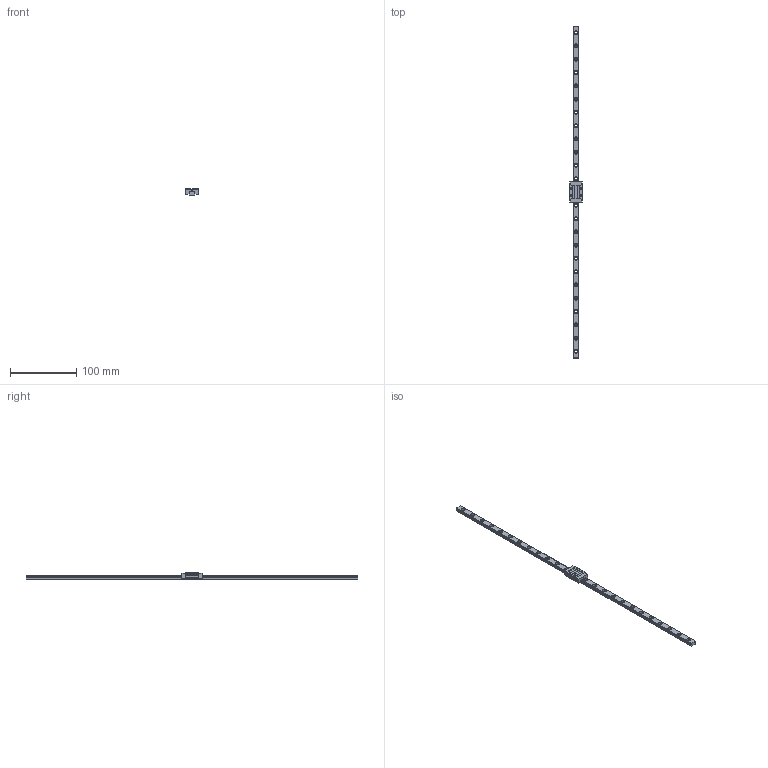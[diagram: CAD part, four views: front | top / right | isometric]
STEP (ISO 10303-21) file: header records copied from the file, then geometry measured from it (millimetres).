
FILE_DESCRIPTION (( 'STEP AP203' ), '1' );
FILE_NAME ('TM09NN-1-500-N.STEP', '2023-10-02T06:21:01', ( '' ), ( '' ), 'SwSTEP 2.0', 'SolidWorks 2022', '' );
FILE_SCHEMA (( 'CONFIG_CONTROL_DESIGN' ));
Length unit declared in the file: millimetre
Products named in the file (1): TM09NN-1-500-N
Bounding box: 20 x 500 x 10 mm (x, y, z)
Volume: 24249.4 mm3; surface area: 19640.8 mm2
Topology: 2 solids, 2 shells, 243 faces, 624 edges, 408 vertices
Faces by surface type: cylinder 144, plane 91, cone 8
Entity records: 7609 total; most frequent: DIRECTION 1392, CARTESIAN_POINT 1268, ORIENTED_EDGE 1232, EDGE_CURVE 616, AXIS2_PLACEMENT_3D 532, VERTEX_POINT 408, VECTOR 328, LINE 328
